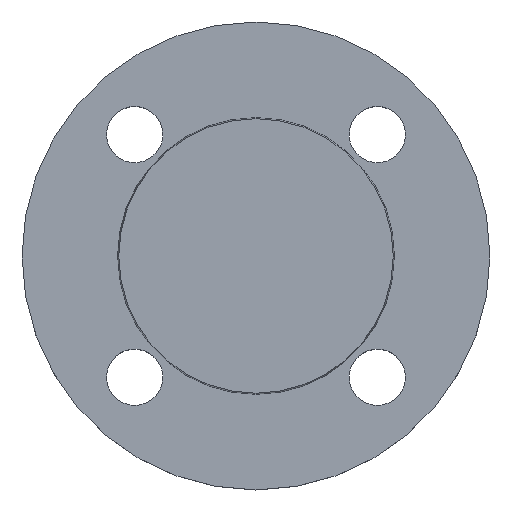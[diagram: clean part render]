
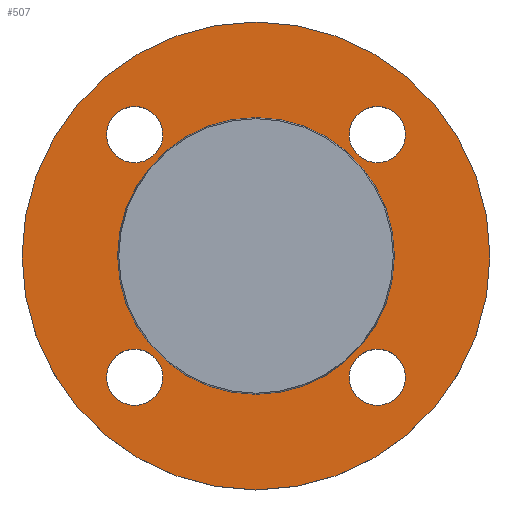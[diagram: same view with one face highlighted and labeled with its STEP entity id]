
A CAD part, top view. The second image highlights one B-rep face of the part: STEP entity #507.
In plain terms, the highlighted planar face has unit normal (0, 0, 1).
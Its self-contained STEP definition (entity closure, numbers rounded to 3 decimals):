
#1 = EDGE_CURVE ( 'NONE', #570, #577, #346, .T. ) ;
#2 = AXIS2_PLACEMENT_3D ( 'NONE', #597, #604, #605 ) ;
#6 = AXIS2_PLACEMENT_3D ( 'NONE', #148, #190, #383 ) ;
#12 = EDGE_CURVE ( 'NONE', #590, #588, #131, .T. ) ;
#66 = AXIS2_PLACEMENT_3D ( 'NONE', #274, #275, #276 ) ;
#86 = DIRECTION ( 'NONE',  ( -1., 0., 0. ) ) ;
#87 = DIRECTION ( 'NONE',  ( 0., 0., -1. ) ) ;
#88 = CARTESIAN_POINT ( 'NONE',  ( 0., 0., -2. ) ) ;
#89 = DIRECTION ( 'NONE',  ( 1., 0., 0. ) ) ;
#90 = DIRECTION ( 'NONE',  ( 0., 0., -1. ) ) ;
#91 = CARTESIAN_POINT ( 'NONE',  ( 38.891, 38.891, -2. ) ) ;
#126 = EDGE_CURVE ( 'NONE', #236, #230, #747, .T. ) ;
#131 = CIRCLE ( 'NONE', #2, 75. ) ;
#146 = CARTESIAN_POINT ( 'NONE',  ( 44.353, 0., -2. ) ) ;
#148 = CARTESIAN_POINT ( 'NONE',  ( 44.353, 0., -2. ) ) ;
#150 = PLANE ( 'NONE',  #6 ) ;
#152 = EDGE_CURVE ( 'NONE', #230, #236, #680, .T. ) ;
#153 = CARTESIAN_POINT ( 'NONE',  ( 38.891, -38.891, -2. ) ) ;
#160 = CARTESIAN_POINT ( 'NONE',  ( -44.353, 0., -2. ) ) ;
#171 = DIRECTION ( 'NONE',  ( 1., 0., 0. ) ) ;
#176 = DIRECTION ( 'NONE',  ( 1., 0., 0. ) ) ;
#177 = CARTESIAN_POINT ( 'NONE',  ( 38.891, 38.891, -2. ) ) ;
#180 = DIRECTION ( 'NONE',  ( 0., 0., -1. ) ) ;
#182 = CARTESIAN_POINT ( 'NONE',  ( 75., 0., -2. ) ) ;
#183 = CARTESIAN_POINT ( 'NONE',  ( 47.891, 38.891, -2. ) ) ;
#185 = CARTESIAN_POINT ( 'NONE',  ( -75., 0., -2. ) ) ;
#187 = CARTESIAN_POINT ( 'NONE',  ( 47.891, -38.891, -2. ) ) ;
#189 = FACE_OUTER_BOUND ( 'NONE', #549, .T. ) ;
#190 = DIRECTION ( 'NONE',  ( 0., 0., 1. ) ) ;
#194 = CIRCLE ( 'NONE', #342, 75. ) ;
#198 = CIRCLE ( 'NONE', #66, 9. ) ;
#204 = CIRCLE ( 'NONE', #211, 9. ) ;
#211 = AXIS2_PLACEMENT_3D ( 'NONE', #153, #371, #171 ) ;
#214 = AXIS2_PLACEMENT_3D ( 'NONE', #262, #263, #264 ) ;
#216 = EDGE_CURVE ( 'NONE', #588, #590, #194, .T. ) ;
#223 = CARTESIAN_POINT ( 'NONE',  ( -38.891, -38.891, -2. ) ) ;
#230 = VERTEX_POINT ( 'NONE', #737 ) ;
#233 = AXIS2_PLACEMENT_3D ( 'NONE', #88, #87, #86 ) ;
#236 = VERTEX_POINT ( 'NONE', #741 ) ;
#237 = VERTEX_POINT ( 'NONE', #742 ) ;
#244 = DIRECTION ( 'NONE',  ( 0., 0., -1. ) ) ;
#245 = DIRECTION ( 'NONE',  ( 1., 0., 0. ) ) ;
#262 = CARTESIAN_POINT ( 'NONE',  ( -38.891, -38.891, -2. ) ) ;
#263 = DIRECTION ( 'NONE',  ( 0., 0., -1. ) ) ;
#264 = DIRECTION ( 'NONE',  ( 1., 0., 0. ) ) ;
#274 = CARTESIAN_POINT ( 'NONE',  ( 38.891, -38.891, -2. ) ) ;
#275 = DIRECTION ( 'NONE',  ( 0., 0., -1. ) ) ;
#276 = DIRECTION ( 'NONE',  ( 1., 0., 0. ) ) ;
#291 = CIRCLE ( 'NONE', #233, 44.353 ) ;
#295 = AXIS2_PLACEMENT_3D ( 'NONE', #91, #90, #89 ) ;
#309 = EDGE_CURVE ( 'NONE', #237, #465, #390, .T. ) ;
#315 = CIRCLE ( 'NONE', #295, 9. ) ;
#327 = AXIS2_PLACEMENT_3D ( 'NONE', #593, #594, #595 ) ;
#342 = AXIS2_PLACEMENT_3D ( 'NONE', #722, #723, #724 ) ;
#346 = CIRCLE ( 'NONE', #327, 44.353 ) ;
#356 = CARTESIAN_POINT ( 'NONE',  ( -29.891, -38.891, -2. ) ) ;
#361 = CARTESIAN_POINT ( 'NONE',  ( 29.891, -38.891, -2. ) ) ;
#369 = FACE_BOUND ( 'NONE', #546, .T. ) ;
#371 = DIRECTION ( 'NONE',  ( 0., 0., -1. ) ) ;
#372 = EDGE_CURVE ( 'NONE', #465, #237, #657, .T. ) ;
#373 = CARTESIAN_POINT ( 'NONE',  ( 29.891, 38.891, -2. ) ) ;
#378 = FACE_BOUND ( 'NONE', #564, .T. ) ;
#379 = FACE_BOUND ( 'NONE', #559, .T. ) ;
#382 = FACE_BOUND ( 'NONE', #533, .T. ) ;
#383 = DIRECTION ( 'NONE',  ( 1., 0., 0. ) ) ;
#385 = FACE_BOUND ( 'NONE', #539, .T. ) ;
#388 = EDGE_CURVE ( 'NONE', #548, #592, #198, .T. ) ;
#390 = CIRCLE ( 'NONE', #521, 9. ) ;
#447 = ORIENTED_EDGE ( 'NONE', *, *, #388, .T. ) ;
#449 = ORIENTED_EDGE ( 'NONE', *, *, #476, .T. ) ;
#450 = ORIENTED_EDGE ( 'NONE', *, *, #372, .T. ) ;
#451 = ORIENTED_EDGE ( 'NONE', *, *, #309, .T. ) ;
#453 = ORIENTED_EDGE ( 'NONE', *, *, #126, .T. ) ;
#454 = ORIENTED_EDGE ( 'NONE', *, *, #152, .T. ) ;
#455 = ORIENTED_EDGE ( 'NONE', *, *, #587, .T. ) ;
#458 = ORIENTED_EDGE ( 'NONE', *, *, #670, .T. ) ;
#459 = ORIENTED_EDGE ( 'NONE', *, *, #1, .T. ) ;
#460 = ORIENTED_EDGE ( 'NONE', *, *, #687, .T. ) ;
#462 = ORIENTED_EDGE ( 'NONE', *, *, #216, .F. ) ;
#463 = ORIENTED_EDGE ( 'NONE', *, *, #12, .F. ) ;
#465 = VERTEX_POINT ( 'NONE', #356 ) ;
#476 = EDGE_CURVE ( 'NONE', #592, #548, #204, .T. ) ;
#507 = ADVANCED_FACE ( 'NONE', ( #378, #379, #382, #385, #369, #189 ), #150, .T. ) ;
#521 = AXIS2_PLACEMENT_3D ( 'NONE', #223, #244, #245 ) ;
#530 = VERTEX_POINT ( 'NONE', #373 ) ;
#533 = EDGE_LOOP ( 'NONE', ( #453, #454 ) ) ;
#539 = EDGE_LOOP ( 'NONE', ( #455, #458 ) ) ;
#546 = EDGE_LOOP ( 'NONE', ( #459, #460 ) ) ;
#548 = VERTEX_POINT ( 'NONE', #187 ) ;
#549 = EDGE_LOOP ( 'NONE', ( #462, #463 ) ) ;
#559 = EDGE_LOOP ( 'NONE', ( #450, #451 ) ) ;
#564 = EDGE_LOOP ( 'NONE', ( #447, #449 ) ) ;
#570 = VERTEX_POINT ( 'NONE', #160 ) ;
#577 = VERTEX_POINT ( 'NONE', #146 ) ;
#587 = EDGE_CURVE ( 'NONE', #591, #530, #707, .T. ) ;
#588 = VERTEX_POINT ( 'NONE', #182 ) ;
#590 = VERTEX_POINT ( 'NONE', #185 ) ;
#591 = VERTEX_POINT ( 'NONE', #183 ) ;
#592 = VERTEX_POINT ( 'NONE', #361 ) ;
#593 = CARTESIAN_POINT ( 'NONE',  ( 0., 0., -2. ) ) ;
#594 = DIRECTION ( 'NONE',  ( 0., 0., -1. ) ) ;
#595 = DIRECTION ( 'NONE',  ( -1., 0., 0. ) ) ;
#597 = CARTESIAN_POINT ( 'NONE',  ( 0., 0., -2. ) ) ;
#601 = AXIS2_PLACEMENT_3D ( 'NONE', #177, #180, #176 ) ;
#603 = AXIS2_PLACEMENT_3D ( 'NONE', #652, #653, #654 ) ;
#604 = DIRECTION ( 'NONE',  ( 0., 0., -1. ) ) ;
#605 = DIRECTION ( 'NONE',  ( -1., 0., 0. ) ) ;
#619 = AXIS2_PLACEMENT_3D ( 'NONE', #673, #674, #675 ) ;
#652 = CARTESIAN_POINT ( 'NONE',  ( -38.891, 38.891, -2. ) ) ;
#653 = DIRECTION ( 'NONE',  ( 0., 0., -1. ) ) ;
#654 = DIRECTION ( 'NONE',  ( 1., 0., 0. ) ) ;
#657 = CIRCLE ( 'NONE', #214, 9. ) ;
#670 = EDGE_CURVE ( 'NONE', #530, #591, #315, .T. ) ;
#673 = CARTESIAN_POINT ( 'NONE',  ( -38.891, 38.891, -2. ) ) ;
#674 = DIRECTION ( 'NONE',  ( 0., 0., -1. ) ) ;
#675 = DIRECTION ( 'NONE',  ( 1., 0., 0. ) ) ;
#680 = CIRCLE ( 'NONE', #619, 9. ) ;
#687 = EDGE_CURVE ( 'NONE', #577, #570, #291, .T. ) ;
#707 = CIRCLE ( 'NONE', #601, 9. ) ;
#722 = CARTESIAN_POINT ( 'NONE',  ( 0., 0., -2. ) ) ;
#723 = DIRECTION ( 'NONE',  ( 0., 0., -1. ) ) ;
#724 = DIRECTION ( 'NONE',  ( -1., 0., 0. ) ) ;
#737 = CARTESIAN_POINT ( 'NONE',  ( -47.891, 38.891, -2. ) ) ;
#741 = CARTESIAN_POINT ( 'NONE',  ( -29.891, 38.891, -2. ) ) ;
#742 = CARTESIAN_POINT ( 'NONE',  ( -47.891, -38.891, -2. ) ) ;
#747 = CIRCLE ( 'NONE', #603, 9. ) ;
